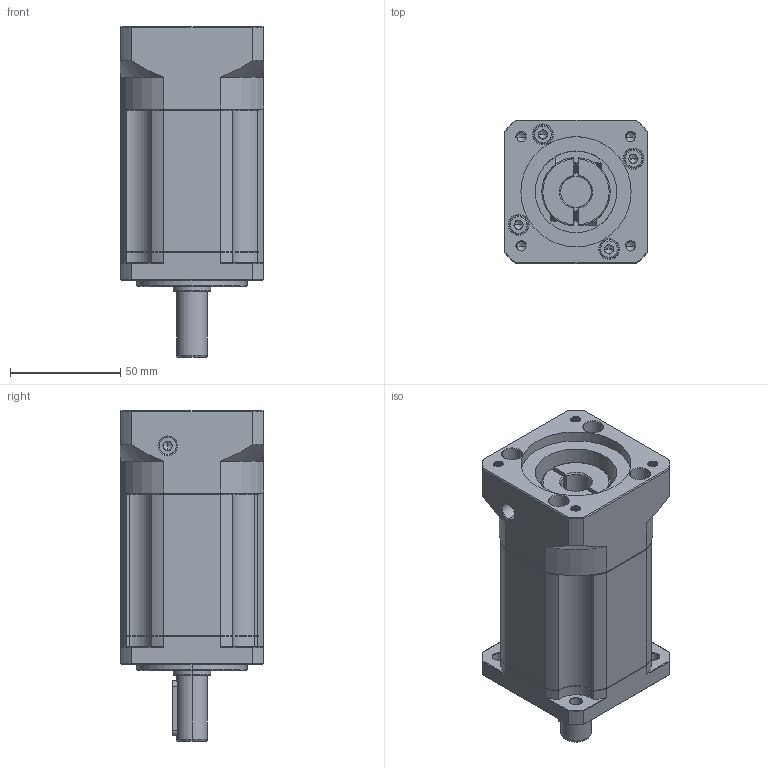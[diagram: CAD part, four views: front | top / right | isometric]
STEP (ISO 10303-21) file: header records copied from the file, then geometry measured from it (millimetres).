
FILE_DESCRIPTION (( 'STEP AP214' ), '1' );
FILE_NAME ('ZB060-D14-L3-P2-14-50-70-M5.step', '2023-08-16T07:03:02', ( '' ), ( '' ), 'SwSTEP 2.0', 'SolidWorks 2016', '' );
FILE_SCHEMA (( 'AUTOMOTIVE_DESIGN' ));
Length unit declared in the file: millimetre
Products named in the file (1): ZB060-D14-L3-P2-14-50-70-M5
Bounding box: 65 x 65 x 150 mm (x, y, z)
Volume: 389295.6 mm3; surface area: 62740.6 mm2
Topology: 6 solids, 6 shells, 2164 faces, 5824 edges, 3748 vertices
Faces by surface type: plane 1059, bspline 397, cylinder 393, cone 279, torus 36
Entity records: 117590 total; most frequent: CARTESIAN_POINT 42649, ORIENTED_EDGE 11588, DIRECTION 9130, EDGE_CURVE 5794, VERTEX_POINT 3748, VECTOR 3656, LINE 3656, AXIS2_PLACEMENT_3D 2737
